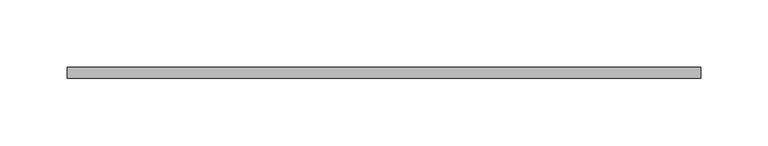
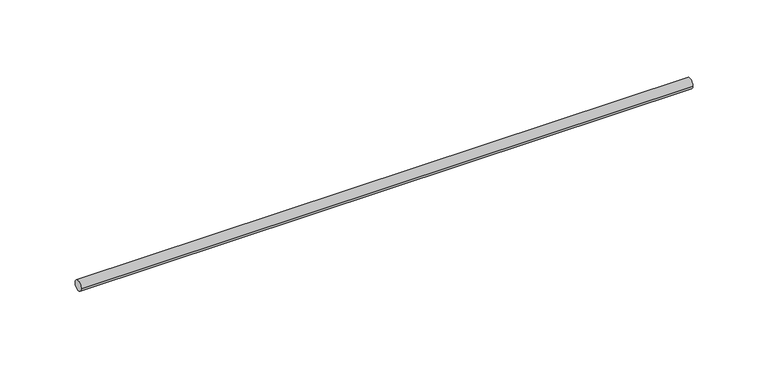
"""IFC4 building model written with IfcOpenShell, lengths in millimetres: valve geometry, Superfix Threaded Rod (used for clamps) : Threaded Rod - 1000 mm (used for clamps)."""

from ifc_helpers import new_model, si_unit, point, frame, origin, origin_2d, place, context, project, spatial, circle_curve, trimmed, segment, composite_curve, outline, extrude, source, transform, mapped, element, save


def valve_f36d75ac(model_context):
    return source(origin(), model_context, "Body", "SweptSolid", [
        extrude(outline(composite_curve([segment(trimmed(circle_curve(origin_2d(), 4.0), [point((-4.0, 0.0))], [point((4.0, 0.0))], False, "CARTESIAN"), True, "CONTINUOUS"), segment(trimmed(circle_curve(origin_2d(), 4.0), [point((4.0, 0.0))], [point((-4.0, 0.0))], False, "CARTESIAN"), True, "CONTINUOUS")], self_intersect=False)), frame((-10.0, 0.0, 0.0), z_axis=(1.0, 0.0, 0.0), x_axis=(0.0, 1.0, 0.0)), (0.0, 0.0, 1.0), 470.0),
    ])


if __name__ == "__main__":
    model = new_model("IFC4")
    model_context = context("Model", 3, world=origin())
    ifc_project = project(units=[si_unit("LENGTHUNIT", "METRE", prefix="MILLI")], contexts=[model_context])
    site = spatial("IfcSite", under=ifc_project)
    building = spatial("IfcBuilding", under=site)
    placement = place(None, origin())
    valve_shape = valve_f36d75ac(model_context)
    element("IfcValve", 1, ObjectType="Superfix Threaded Rod (used for clamps) : Threaded Rod - 1000 mm (used for clamps)", at=placement, inside=building, context=model_context, shape_type="MappedRepresentation", body=[
        mapped(valve_shape, transform((0.0, 0.0, 0.0), x_axis=(1.0, 0.0, 0.0), y_axis=(0.0, 1.0, 0.0), z_axis=(0.0, 0.0, 1.0))),
    ])
    save(model, "model.ifc")
